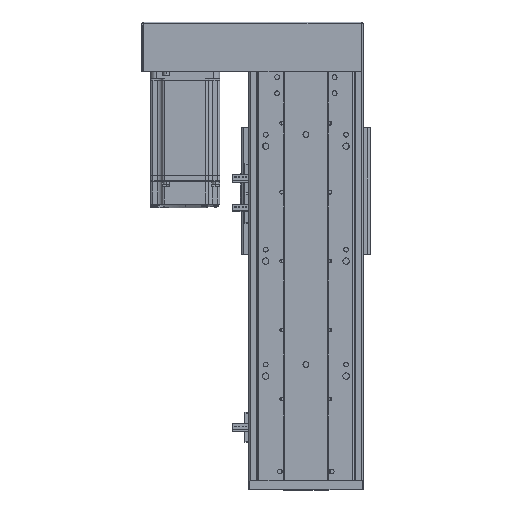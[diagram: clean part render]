
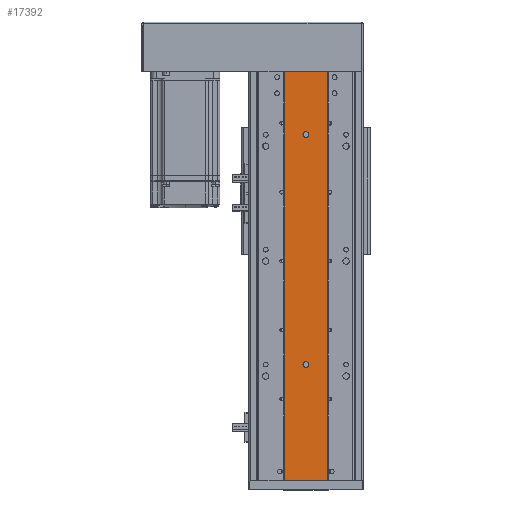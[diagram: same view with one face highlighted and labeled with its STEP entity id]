
A CAD part, top view. The second image highlights one B-rep face of the part: STEP entity #17392.
In plain terms, the highlighted planar face has unit normal (0, 0, 1).
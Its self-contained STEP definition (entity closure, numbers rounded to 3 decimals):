
#4405 = VERTEX_POINT ( 'NONE', #26973 ) ;
#5293 = VERTEX_POINT ( 'NONE', #26862 ) ;
#5458 = VERTEX_POINT ( 'NONE', #42405 ) ;
#5491 = VERTEX_POINT ( 'NONE', #42500 ) ;
#5502 = VERTEX_POINT ( 'NONE', #42480 ) ;
#5550 = VERTEX_POINT ( 'NONE', #42652 ) ;
#5552 = VERTEX_POINT ( 'NONE', #42645 ) ;
#5894 = ORIENTED_EDGE ( 'NONE', *, *, #43592, .T. ) ;
#5905 = ORIENTED_EDGE ( 'NONE', *, *, #18875, .F. ) ;
#5923 = ORIENTED_EDGE ( 'NONE', *, *, #18796, .T. ) ;
#5941 = ORIENTED_EDGE ( 'NONE', *, *, #18903, .T. ) ;
#5942 = ORIENTED_EDGE ( 'NONE', *, *, #18874, .T. ) ;
#5949 = ORIENTED_EDGE ( 'NONE', *, *, #18856, .F. ) ;
#5987 = ORIENTED_EDGE ( 'NONE', *, *, #43525, .T. ) ;
#6002 = ORIENTED_EDGE ( 'NONE', *, *, #18898, .T. ) ;
#7103 = EDGE_LOOP ( 'NONE', ( #5894, #5941 ) ) ;
#7119 = EDGE_LOOP ( 'NONE', ( #5923, #5905, #5949, #5942 ) ) ;
#7137 = EDGE_LOOP ( 'NONE', ( #5987, #6002 ) ) ;
#7683 = AXIS2_PLACEMENT_3D ( 'NONE', #46389, #46390, #46396 ) ;
#7705 = AXIS2_PLACEMENT_3D ( 'NONE', #46411, #46383, #46384 ) ;
#8812 = AXIS2_PLACEMENT_3D ( 'NONE', #38827, #38819, #38821 ) ;
#8869 = AXIS2_PLACEMENT_3D ( 'NONE', #38978, #38994, #38996 ) ;
#12873 = CARTESIAN_POINT ( 'NONE',  ( -10607.079, 0., -17040.86 ) ) ;
#17392 = ADVANCED_FACE ( 'NONE', ( #45349, #45376, #45333 ), #25001, .F. ) ;
#18796 = EDGE_CURVE ( 'NONE', #5293, #35185, #28288, .T. ) ;
#18856 = EDGE_CURVE ( 'NONE', #4405, #5502, #28380, .T. ) ;
#18874 = EDGE_CURVE ( 'NONE', #4405, #5293, #28418, .T. ) ;
#18875 = EDGE_CURVE ( 'NONE', #5502, #35185, #28447, .T. ) ;
#18898 = EDGE_CURVE ( 'NONE', #5552, #5491, #28516, .T. ) ;
#18903 = EDGE_CURVE ( 'NONE', #5550, #5458, #28506, .T. ) ;
#22800 = AXIS2_PLACEMENT_3D ( 'NONE', #25002, #25006, #25007 ) ;
#25001 = PLANE ( 'NONE',  #22800 ) ;
#25002 = CARTESIAN_POINT ( 'NONE',  ( -10645.079, 356., -17040.86 ) ) ;
#25006 = DIRECTION ( 'NONE',  ( 0., 0., -1. ) ) ;
#25007 = DIRECTION ( 'NONE',  ( -1., 0., 0. ) ) ;
#26862 = CARTESIAN_POINT ( 'NONE',  ( -10645.079, 0., -17040.86 ) ) ;
#26973 = CARTESIAN_POINT ( 'NONE',  ( -10645.079, 356., -17040.86 ) ) ;
#28288 = LINE ( 'NONE', #46158, #28295 ) ;
#28295 = VECTOR ( 'NONE', #46134, 1000. ) ;
#28380 = LINE ( 'NONE', #46269, #28381 ) ;
#28381 = VECTOR ( 'NONE', #46274, 1000. ) ;
#28415 = VECTOR ( 'NONE', #46303, 1000. ) ;
#28418 = LINE ( 'NONE', #46295, #28415 ) ;
#28437 = VECTOR ( 'NONE', #46329, 1000. ) ;
#28447 = LINE ( 'NONE', #46300, #28437 ) ;
#28506 = CIRCLE ( 'NONE', #7683, 2.5 ) ;
#28516 = CIRCLE ( 'NONE', #7705, 2.5 ) ;
#35185 = VERTEX_POINT ( 'NONE', #12873 ) ;
#38819 = DIRECTION ( 'NONE',  ( 0., 0., -1. ) ) ;
#38821 = DIRECTION ( 'NONE',  ( -1., 0., 0. ) ) ;
#38827 = CARTESIAN_POINT ( 'NONE',  ( -10626.079, 101., -17040.86 ) ) ;
#38978 = CARTESIAN_POINT ( 'NONE',  ( -10626.079, 301., -17040.86 ) ) ;
#38994 = DIRECTION ( 'NONE',  ( 0., 0., -1. ) ) ;
#38996 = DIRECTION ( 'NONE',  ( -1., 0., 0. ) ) ;
#39544 = CIRCLE ( 'NONE', #8812, 2.5 ) ;
#39633 = CIRCLE ( 'NONE', #8869, 2.5 ) ;
#42405 = CARTESIAN_POINT ( 'NONE',  ( -10623.579, 301., -17040.86 ) ) ;
#42480 = CARTESIAN_POINT ( 'NONE',  ( -10607.079, 356., -17040.86 ) ) ;
#42500 = CARTESIAN_POINT ( 'NONE',  ( -10623.579, 101., -17040.86 ) ) ;
#42645 = CARTESIAN_POINT ( 'NONE',  ( -10628.579, 101., -17040.86 ) ) ;
#42652 = CARTESIAN_POINT ( 'NONE',  ( -10628.579, 301., -17040.86 ) ) ;
#43525 = EDGE_CURVE ( 'NONE', #5491, #5552, #39544, .T. ) ;
#43592 = EDGE_CURVE ( 'NONE', #5458, #5550, #39633, .T. ) ;
#45333 = FACE_OUTER_BOUND ( 'NONE', #7119, .T. ) ;
#45349 = FACE_BOUND ( 'NONE', #7103, .T. ) ;
#45376 = FACE_BOUND ( 'NONE', #7137, .T. ) ;
#46134 = DIRECTION ( 'NONE',  ( 1., 0., 0. ) ) ;
#46158 = CARTESIAN_POINT ( 'NONE',  ( -10645.079, 0., -17040.86 ) ) ;
#46269 = CARTESIAN_POINT ( 'NONE',  ( -10645.079, 356., -17040.86 ) ) ;
#46274 = DIRECTION ( 'NONE',  ( 1., 0., 0. ) ) ;
#46295 = CARTESIAN_POINT ( 'NONE',  ( -10645.079, 356., -17040.86 ) ) ;
#46300 = CARTESIAN_POINT ( 'NONE',  ( -10607.079, 356., -17040.86 ) ) ;
#46303 = DIRECTION ( 'NONE',  ( 0., -1., 0. ) ) ;
#46329 = DIRECTION ( 'NONE',  ( 0., -1., 0. ) ) ;
#46383 = DIRECTION ( 'NONE',  ( 0., 0., -1. ) ) ;
#46384 = DIRECTION ( 'NONE',  ( -1., 0., 0. ) ) ;
#46389 = CARTESIAN_POINT ( 'NONE',  ( -10626.079, 301., -17040.86 ) ) ;
#46390 = DIRECTION ( 'NONE',  ( 0., 0., -1. ) ) ;
#46396 = DIRECTION ( 'NONE',  ( -1., 0., 0. ) ) ;
#46411 = CARTESIAN_POINT ( 'NONE',  ( -10626.079, 101., -17040.86 ) ) ;
